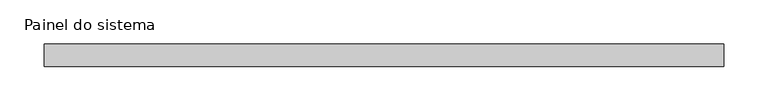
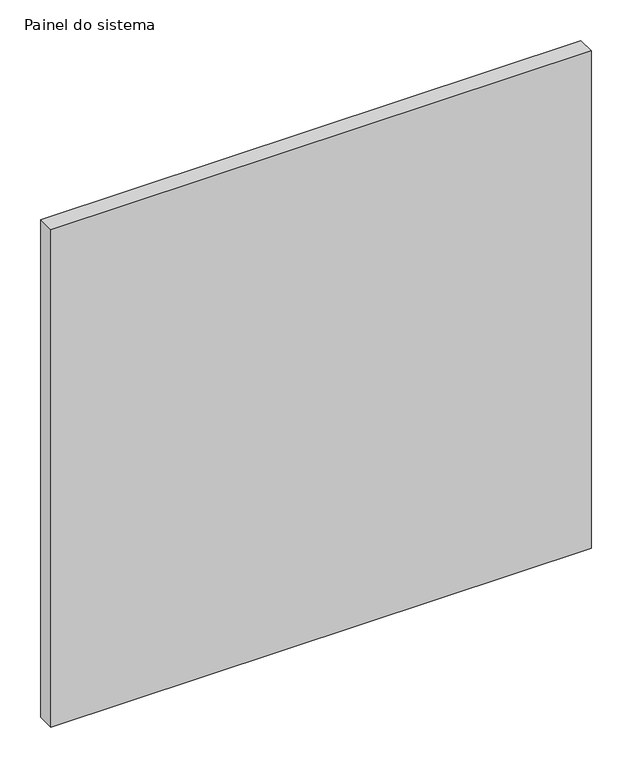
"""IFC4 building model written with IfcOpenShell, lengths in millimetres: plate geometry, Painel do sistema : Envidraçado."""

import ifcopenshell
import ifcopenshell.guid

model = None  # the IFC model being written
_history = None  # IfcOwnerHistory: only IFC2X3 demands one
_inside = {}  # id of a spatial element -> (the spatial element, [elements in it])
_under = {}  # id of a project, library or spatial element -> (it, [spatial elements below it])
_declared = {}  # id of a project -> (the project, [libraries it declares])
_typed = {}  # id of a type object -> (the type object, [elements of that type])
_made_of = {}  # id of a material, layer set ... -> (it, [elements and type objects made of it])


def new_model(schema):
    """Start an empty IFC model of exactly this schema.

    Asked for "IFC4X3", IfcOpenShell would pick the latest addendum, in which some entities
    have other attributes; the version numbers below select the first issue.
    IFC2X3 requires an IfcOwnerHistory on every rooted entity: one is made here for all.
    """
    global model, _history
    if schema == "IFC4X3":
        model = ifcopenshell.file(schema_version=(4, 3, 0, 0))
    else:
        model = ifcopenshell.file(schema=schema)
    _inside.clear()
    _under.clear()
    _declared.clear()
    _typed.clear()
    _made_of.clear()
    _history = None
    if model.schema == "IFC2X3":
        org = make("IfcOrganization", Name="unknown")
        user = make(
            "IfcPersonAndOrganization",
            ThePerson=make("IfcPerson", FamilyName="unknown"),
            TheOrganization=org,
        )
        app = make(
            "IfcApplication",
            ApplicationDeveloper=org,
            Version="unknown",
            ApplicationFullName="unknown",
            ApplicationIdentifier="unknown",
        )
        _history = make(
            "IfcOwnerHistory",
            OwningUser=user,
            OwningApplication=app,
            ChangeAction="ADDED",
            CreationDate=0,
        )
    return model


def make(cls, **values):
    """One entity of the class cls with the attributes given. An attribute that is None is left unset."""
    return model.create_entity(
        cls, **{name: value for name, value in values.items() if value is not None}
    )


def rooted(cls, **values):
    """An entity with a GlobalId (a new one), such as an element, a storey or a relation."""
    return make(cls, GlobalId=ifcopenshell.guid.new(), OwnerHistory=_history, **values)


def si_unit(unit_type, name, prefix=None):
    """IfcSIUnit, for example si_unit("LENGTHUNIT", "METRE", prefix="MILLI")."""
    return make("IfcSIUnit", UnitType=unit_type, Prefix=prefix, Name=name)


def assignment(units):
    """IfcUnitAssignment: the units of a project."""
    return None if units is None else make("IfcUnitAssignment", Units=units)


def point(xyz):
    """IfcCartesianPoint."""
    return None if xyz is None else make("IfcCartesianPoint", Coordinates=xyz)


def direction(xyz):
    """IfcDirection."""
    return None if xyz is None else make("IfcDirection", DirectionRatios=xyz)


def frame(location, z_axis=None, x_axis=None):
    """IfcAxis2Placement3D, a coordinate frame: its origin and axes. An axis left out is left unset."""
    return make(
        "IfcAxis2Placement3D",
        Location=point(location),
        Axis=direction(z_axis),
        RefDirection=direction(x_axis),
    )


def origin():
    """The frame at (0, 0, 0) with its axes left unset."""
    return frame((0.0, 0.0, 0.0))


def origin_with_axes():
    """The frame at (0, 0, 0) with the z axis (0, 0, 1) and the x axis (1, 0, 0) written out."""
    return frame((0.0, 0.0, 0.0), z_axis=(0.0, 0.0, 1.0), x_axis=(1.0, 0.0, 0.0))


def place(relative_to, where):
    """IfcLocalPlacement: puts the frame where relative to a parent placement (None: the world)."""
    return make(
        "IfcLocalPlacement", PlacementRelTo=relative_to, RelativePlacement=where
    )


def context(
    kind, dimensions, precision=None, world=None, true_north=None, identifier=None
):
    """IfcGeometricRepresentationContext, for example the 3D "Model" context."""
    return make(
        "IfcGeometricRepresentationContext",
        ContextIdentifier=identifier,
        ContextType=kind,
        CoordinateSpaceDimension=dimensions,
        Precision=precision,
        WorldCoordinateSystem=world,
        TrueNorth=true_north,
    )


def project(units=None, contexts=None):
    """IfcProject with its units and contexts."""
    return rooted(
        "IfcProject",
        Name="project",
        RepresentationContexts=contexts,
        UnitsInContext=assignment(units),
    )


def spatial(cls, under=None, at=None, **own):
    """A site, building, storey or space (cls), placed at a placement, below another one or the project."""
    s = rooted(cls, ObjectPlacement=at, **own)
    if under is not None:
        _under.setdefault(under.id(), (under, []))[1].append(s)
    return s


def polyline(points):
    """IfcPolyline through the points."""
    return make("IfcPolyline", Points=[point(p) for p in points])


def outline(outer, holes=None, kind="AREA"):
    """IfcArbitraryClosedProfileDef: a profile drawn as a closed curve; with holes, ...WithVoids."""
    if holes is None:
        return make("IfcArbitraryClosedProfileDef", ProfileType=kind, OuterCurve=outer)
    return make(
        "IfcArbitraryProfileDefWithVoids",
        ProfileType=kind,
        OuterCurve=outer,
        InnerCurves=holes,
    )


def extrude(swept, where, along, depth):
    """IfcExtrudedAreaSolid: the profile swept, set in the frame where, extruded along a direction by depth."""
    return make(
        "IfcExtrudedAreaSolid",
        SweptArea=swept,
        Position=where,
        ExtrudedDirection=direction(along),
        Depth=depth,
    )


def shape(context_of_items, identifier, shape_type, items):
    """IfcShapeRepresentation: the items that make up one representation, for example the "Body"."""
    return make(
        "IfcShapeRepresentation",
        ContextOfItems=context_of_items,
        RepresentationIdentifier=identifier,
        RepresentationType=shape_type,
        Items=items,
    )


def source(mapping_origin, context_of_items, identifier, shape_type, items):
    """IfcRepresentationMap: a shape defined once, which mapped items show again and again."""
    return make(
        "IfcRepresentationMap",
        MappingOrigin=mapping_origin,
        MappedRepresentation=shape(context_of_items, identifier, shape_type, items),
    )


def transform(
    local_origin,
    x_axis=None,
    y_axis=None,
    z_axis=None,
    scale=None,
    scale2=None,
    scale3=None,
    uniform=True,
):
    """IfcCartesianTransformationOperator3D, or its non-uniform kind. x_axis, y_axis, z_axis: its Axis1, 2, 3."""
    if uniform:
        return make(
            "IfcCartesianTransformationOperator3D",
            Axis1=direction(x_axis),
            Axis2=direction(y_axis),
            LocalOrigin=point(local_origin),
            Scale=scale,
            Axis3=direction(z_axis),
        )
    return make(
        "IfcCartesianTransformationOperator3DnonUniform",
        Axis1=direction(x_axis),
        Axis2=direction(y_axis),
        LocalOrigin=point(local_origin),
        Scale=scale,
        Axis3=direction(z_axis),
        Scale2=scale2,
        Scale3=scale3,
    )


def mapped(mapping_source, mapping_target):
    """IfcMappedItem: shows the shape of a source again, moved by a transform."""
    return make(
        "IfcMappedItem", MappingSource=mapping_source, MappingTarget=mapping_target
    )


def made_of(thing, what):
    """Note that an element or type object is made of a material, layer set ...; save() writes the relation."""
    if what is not None:
        _made_of.setdefault(what.id(), (what, []))[1].append(thing)
    return thing


def element(
    cls,
    number,
    at=None,
    inside=None,
    cuts=None,
    type_object=None,
    material=None,
    context=None,
    identifier="Body",
    shape_type=None,
    held_by="IfcProductDefinitionShape",
    body=None,
    shapes=None,
    **own,
):
    """One element of the class cls, such as IfcWall. Its Tag is "e" and its number.

    at: its placement. inside: the storey or other place that contains it. cuts: it is an
    opening in that element (IfcRelVoidsElement). A single representation is given by context,
    identifier, shape_type and body (its items); several are given by shapes. held_by: the class
    of the entity that holds the representations. save() writes the other relations.
    """
    e = rooted(cls, Tag="e%d" % number, ObjectPlacement=at, **own)
    if body is not None:
        shapes = [shape(context, identifier, shape_type, body)]
    if shapes is not None:
        e.Representation = make(held_by, Representations=shapes)
    if inside is not None:
        _inside.setdefault(inside.id(), (inside, []))[1].append(e)
    if cuts is not None:
        rooted(
            "IfcRelVoidsElement", RelatingBuildingElement=cuts, RelatedOpeningElement=e
        )
    if type_object is not None:
        _typed.setdefault(type_object.id(), (type_object, []))[1].append(e)
    return made_of(e, material)


def aggregate(whole, parts):
    """IfcRelAggregates: a whole, such as a stair, and the parts it consists of."""
    return rooted("IfcRelAggregates", RelatingObject=whole, RelatedObjects=parts)


def save(model, path):
    """Write the relations noted so far, then the file.

    IfcRelAggregates (storeys below a building ...), IfcRelContainedInSpatialStructure (elements
    in a storey), IfcRelDefinesByType, IfcRelAssociatesMaterial and IfcRelDeclares: one each for
    every whole, place, type object, material and project.
    """
    for whole, parts in _under.values():
        aggregate(whole, parts)
    for where, things in _inside.values():
        rooted(
            "IfcRelContainedInSpatialStructure",
            RelatedElements=things,
            RelatingStructure=where,
        )
    for kind, things in _typed.values():
        rooted("IfcRelDefinesByType", RelatedObjects=things, RelatingType=kind)
    for what, things in _made_of.values():
        rooted("IfcRelAssociatesMaterial", RelatedObjects=things, RelatingMaterial=what)
    for by, libraries in _declared.values():
        rooted("IfcRelDeclares", RelatingContext=by, RelatedDefinitions=libraries)
    model.write(path)


def painel_do_sistema_8604f29e(model_context):
    return source(origin(), model_context, "Body", "SweptSolid", [
        extrude(outline(polyline([(382.5, 24.5), (-382.5, 24.5), (-382.5, 49.5), (382.5, 49.5), (382.5, 24.5)])), origin_with_axes(), (0.0, 0.0, 1.0), 745.0),
    ])


if __name__ == "__main__":
    model = new_model("IFC4")
    model_context = context("Model", 3, world=origin())
    ifc_project = project(units=[si_unit("LENGTHUNIT", "METRE", prefix="MILLI")], contexts=[model_context])
    site = spatial("IfcSite", under=ifc_project)
    building = spatial("IfcBuilding", under=site)
    placement = place(None, origin())
    painel_do_sistema_shape = painel_do_sistema_8604f29e(model_context)
    element("IfcPlate", 1, ObjectType="Painel do sistema : Envidraçado", at=placement, inside=building, context=model_context, shape_type="MappedRepresentation", body=[
        mapped(painel_do_sistema_shape, transform((0.0, 0.0, 0.0), x_axis=(1.0, 0.0, 0.0), y_axis=(0.0, 1.0, 0.0), z_axis=(0.0, 0.0, 1.0))),
    ])
    save(model, "model.ifc")
